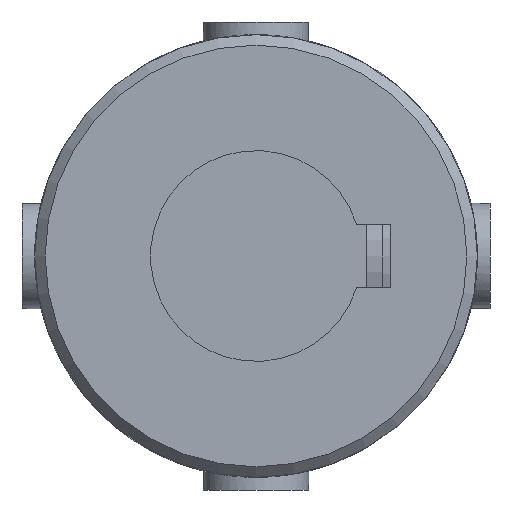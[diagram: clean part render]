
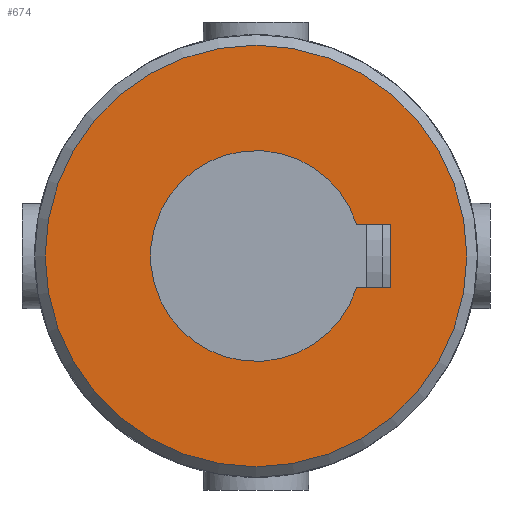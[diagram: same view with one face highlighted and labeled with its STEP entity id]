
A CAD part, front view. The second image highlights one B-rep face of the part: STEP entity #674.
In plain terms, the highlighted planar face has unit normal (0, -1, 0).
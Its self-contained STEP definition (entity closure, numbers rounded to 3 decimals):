
#81=LINE('',#1022,#114);
#85=LINE('',#1042,#118);
#87=LINE('',#1054,#120);
#114=VECTOR('',#840,3.261);
#118=VECTOR('',#852,3.261);
#120=VECTOR('',#858,6.);
#146=PLANE('',#736);
#170=FACE_BOUND('',#250,.T.);
#194=FACE_OUTER_BOUND('',#249,.T.);
#249=EDGE_LOOP('',(#546));
#250=EDGE_LOOP('',(#547,#548,#549,#550));
#283=CIRCLE('',#725,10.);
#288=CIRCLE('',#734,20.);
#321=VERTEX_POINT('',#1019);
#322=VERTEX_POINT('',#1021);
#325=VERTEX_POINT('',#1031);
#328=VERTEX_POINT('',#1041);
#336=VERTEX_POINT('',#1128);
#392=EDGE_CURVE('',#322,#321,#81,.T.);
#396=EDGE_CURVE('',#325,#322,#283,.T.);
#400=EDGE_CURVE('',#328,#325,#85,.T.);
#404=EDGE_CURVE('',#321,#328,#87,.T.);
#412=EDGE_CURVE('',#336,#336,#288,.T.);
#546=ORIENTED_EDGE('',*,*,#412,.F.);
#547=ORIENTED_EDGE('',*,*,#396,.T.);
#548=ORIENTED_EDGE('',*,*,#392,.T.);
#549=ORIENTED_EDGE('',*,*,#404,.T.);
#550=ORIENTED_EDGE('',*,*,#400,.T.);
#674=ADVANCED_FACE('',(#194,#170),#146,.F.);
#725=AXIS2_PLACEMENT_3D('',#1032,#846,#847);
#734=AXIS2_PLACEMENT_3D('',#1129,#869,#870);
#736=AXIS2_PLACEMENT_3D('',#1305,#877,#878);
#840=DIRECTION('',(0.,0.,-1.));
#846=DIRECTION('center_axis',(0.,1.,0.));
#847=DIRECTION('ref_axis',(0.3,0.,-0.954));
#852=DIRECTION('',(0.,0.,1.));
#858=DIRECTION('',(-1.,0.,0.));
#869=DIRECTION('center_axis',(0.,1.,0.));
#870=DIRECTION('ref_axis',(1.,0.,0.));
#877=DIRECTION('center_axis',(0.,1.,0.));
#878=DIRECTION('ref_axis',(0.,0.,1.));
#1019=CARTESIAN_POINT('',(3.,-51.,-12.8));
#1021=CARTESIAN_POINT('',(3.,-51.,-9.539));
#1022=CARTESIAN_POINT('',(3.,-51.,-4.77));
#1031=CARTESIAN_POINT('',(-3.,-51.,-9.539));
#1032=CARTESIAN_POINT('Origin',(0.,-51.,0.));
#1041=CARTESIAN_POINT('',(-3.,-51.,-12.8));
#1042=CARTESIAN_POINT('',(-3.,-51.,-6.4));
#1054=CARTESIAN_POINT('',(1.5,-51.,-12.8));
#1128=CARTESIAN_POINT('',(-20.,-51.,0.));
#1129=CARTESIAN_POINT('Origin',(0.,-51.,0.));
#1305=CARTESIAN_POINT('Origin',(0.,-51.,0.));
